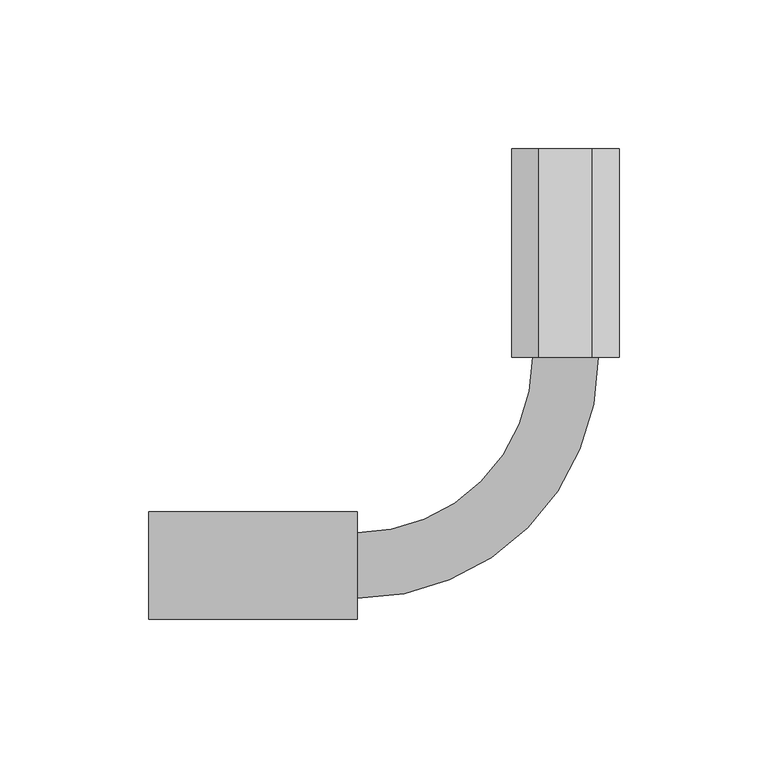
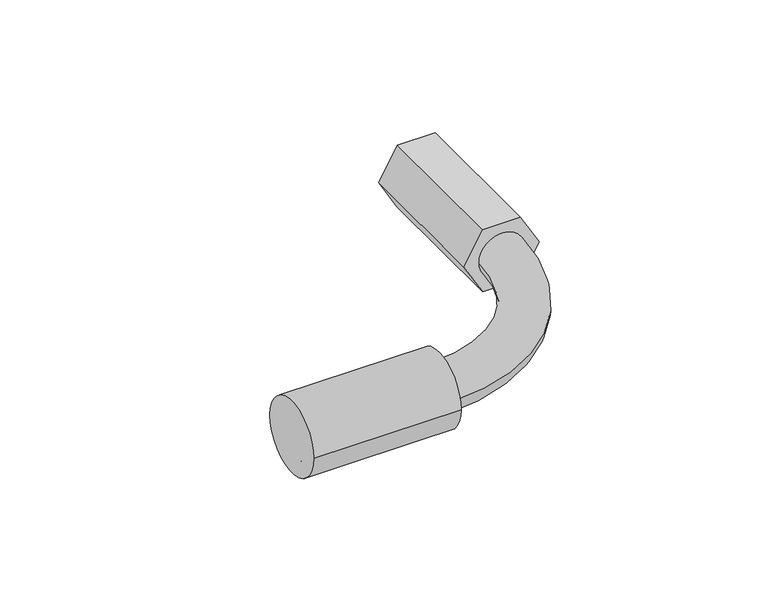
"""IFC4 building model written with IfcOpenShell, lengths in millimetres: cable carrier fitting geometry, Муфта_гибкая_труба-труба_IP44 : Муфта гибкая труба-труба D20мм."""

from ifc_helpers import new_model, si_unit, point, frame, origin, origin_2d, place, context, project, spatial, polyline, circle_curve, ellipse_curve, trimmed, segment, composite_curve, outline, extrude, source, transform, mapped, element, save
from ifc_brep_helpers import plane_surface, cylinder_surface, revolved_surface, advanced_brep


def cable_carrier_fitting_9c39eff4(model_context):
    return source(origin(), model_context, "Body", "SolidModel", [
        extrude(outline(composite_curve([segment(trimmed(circle_curve(origin_2d(), 18.0), [point((-18.0, 0.0))], [point((18.0, 0.0))], False, "CARTESIAN"), True, "CONTINUOUS"), segment(trimmed(circle_curve(origin_2d(), 18.0), [point((18.0, 0.0))], [point((-18.0, 0.0))], False, "CARTESIAN"), True, "CONTINUOUS")], self_intersect=False)), frame((-140.0, 0.0, 0.0), z_axis=(1.0, 0.0, 0.0), x_axis=(0.0, 1.0, 0.0)), (0.0, 0.0, 1.0), 70.0),
        extrude(outline(polyline([(-15.5884573, 9.0), (0.0, 18.0), (15.5884573, 9.0), (15.5884573, -9.0), (0.0, -18.0), (-15.5884573, -9.0), (-15.5884573, 9.0)])), frame((0.0, 70.0, 0.0), z_axis=(0.0, 1.0, 0.0), x_axis=(0.0, 0.0, 1.0)), (0.0, 0.0, 1.0), 70.0),
        advanced_brep(
        [(-140.0, -11.0, 0.0), (-140.0, 11.0, 0.0), (-70.0, -11.0, 0.0), (-70.0, 11.0, 0.0), (-11.0, 70.0, 0.0), (11.0, 70.0, 0.0), (11.0, 140.0, 0.0), (-11.0, 140.0, 0.0)],
        [
            (0, 1, circle_curve(frame((-140.0, 0.0, 0.0), z_axis=(-1.0, 0.0, 0.0), x_axis=(0.0, 1.0, 0.0)), 11.0)),
            (1, 0, circle_curve(frame((-140.0, 0.0, 0.0), z_axis=(-1.0, 0.0, 0.0), x_axis=(0.0, 1.0, 0.0)), 11.0)),
            (0, 2),
            (2, 3, circle_curve(frame((-70.0, 0.0, 0.0), z_axis=(-1.0, 0.0, 0.0), x_axis=(0.0, 1.0, 0.0)), 11.0)),
            (3, 1),
            (3, 2, circle_curve(frame((-70.0, 0.0, 0.0), z_axis=(-1.0, 0.0, 0.0), x_axis=(0.0, 1.0, 0.0)), 11.0)),
            (4, 3, circle_curve(frame((-70.0, 70.0, 0.0), z_axis=(0.0, 0.0, -1.0), x_axis=(0.0, -1.0, 0.0)), 59.0)),
            (2, 5, circle_curve(frame((-70.0, 70.0, 0.0), z_axis=(0.0, 0.0, 1.0), x_axis=(0.0, -1.0, 0.0)), 81.0)),
            (5, 4, circle_curve(frame((0.0, 70.0, 0.0), z_axis=(0.0, -1.0, 0.0), x_axis=(-1.0, 0.0, 0.0)), 11.0)),
            (4, 5, circle_curve(frame((0.0, 70.0, 0.0), z_axis=(0.0, -1.0, 0.0), x_axis=(-1.0, 0.0, 0.0)), 11.0)),
            (6, 7, circle_curve(frame((0.0, 140.0, 0.0), z_axis=(0.0, 1.0, 0.0), x_axis=(-1.0, 0.0, 0.0)), 11.0)),
            (7, 6, circle_curve(frame((0.0, 140.0, 0.0), z_axis=(0.0, 1.0, 0.0), x_axis=(-1.0, 0.0, 0.0)), 11.0)),
            (5, 6),
            (7, 4),
        ],
        [
            plane_surface(frame((-140.0, 0.0, 0.0), z_axis=(-1.0, 0.0, 0.0), x_axis=(0.0, 0.0, 1.0))),
            cylinder_surface(frame((-140.0, 0.0, 0.0), z_axis=(-1.0, 0.0, 0.0), x_axis=(0.0, 1.0, 0.0)), 11.0),
            revolved_surface(trimmed(ellipse_curve(frame((-70.0, 0.0, 0.0), z_axis=(-1.0, 0.0, 0.0), x_axis=(0.0, 1.0, 0.0)), 11.0, 11.0), [point((-70.0, -11.0, 0.0))], [point((-70.0, 11.0, 0.0))], True, "CARTESIAN"), (-70.0, 70.0, 0.0), (0.0, 0.0, 1.0)),
            revolved_surface(trimmed(ellipse_curve(frame((-70.0, 0.0, 0.0), z_axis=(-1.0, 0.0, 0.0), x_axis=(0.0, 1.0, 0.0)), 11.0, 11.0), [point((-70.0, 11.0, 0.0))], [point((-70.0, -11.0, 0.0))], True, "CARTESIAN"), (-70.0, 70.0, 0.0), (0.0, 0.0, 1.0)),
            plane_surface(frame((0.0, 140.0, 0.0), z_axis=(0.0, 1.0, 0.0), x_axis=(0.0, 0.0, 1.0))),
            cylinder_surface(frame((0.0, 70.0, 0.0), z_axis=(0.0, -1.0, 0.0), x_axis=(-1.0, 0.0, 0.0)), 11.0),
        ],
        [
            (0, [[1, 2]]),
            (1, [[-1, 3, 4, 5]]),
            (1, [[-2, -5, 6, -3]]),
            (2, [[7, -4, 8, 9]]),
            (3, [[-8, -6, -7, 10]]),
            (4, [[11, 12]]),
            (5, [[-9, 13, -12, 14]]),
            (5, [[-10, -14, -11, -13]]),
        ],
    ),
    ])


if __name__ == "__main__":
    model = new_model("IFC4")
    model_context = context("Model", 3, world=origin())
    ifc_project = project(units=[si_unit("LENGTHUNIT", "METRE", prefix="MILLI")], contexts=[model_context])
    site = spatial("IfcSite", under=ifc_project)
    building = spatial("IfcBuilding", under=site)
    placement = place(None, origin())
    cable_carrier_fitting_shape = cable_carrier_fitting_9c39eff4(model_context)
    element("IfcCableCarrierFitting", 1, ObjectType="Муфта_гибкая_труба-труба_IP44 : Муфта гибкая труба-труба D20мм", at=placement, inside=building, context=model_context, shape_type="MappedRepresentation", body=[
        mapped(cable_carrier_fitting_shape, transform((0.0, 0.0, 0.0), x_axis=(1.0, 0.0, 0.0), y_axis=(0.0, 1.0, 0.0), z_axis=(0.0, 0.0, 1.0))),
    ])
    save(model, "model.ifc")
